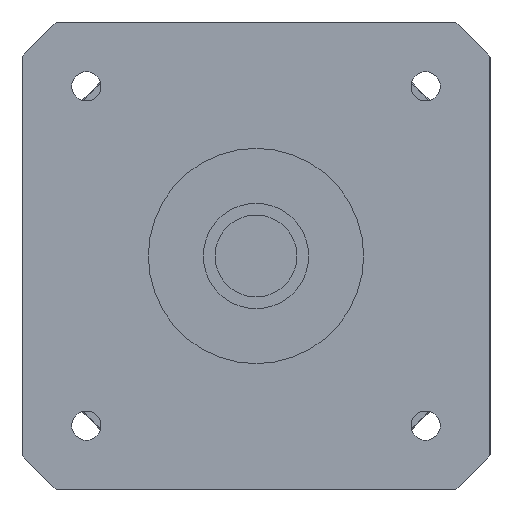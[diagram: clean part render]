
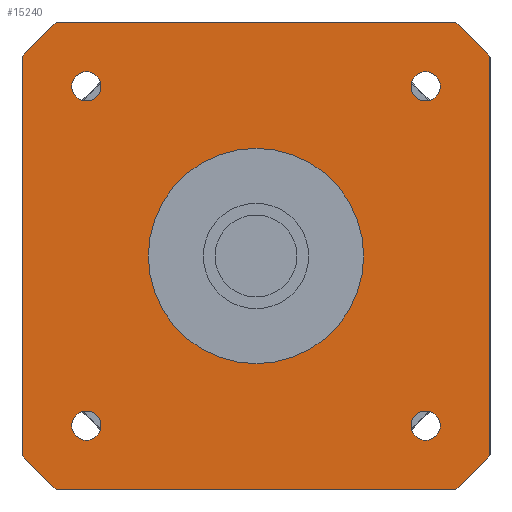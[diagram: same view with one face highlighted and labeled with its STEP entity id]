
A CAD part, left-side view. The second image highlights one B-rep face of the part: STEP entity #15240.
In plain terms, the highlighted planar face has unit normal (-1, 0, 0) as drawn and (0, 0, -1) by its records, which use the part's own axes.
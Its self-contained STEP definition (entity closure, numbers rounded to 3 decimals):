
#8700=CARTESIAN_POINT('',(-34.004,-40.,-44.2));
#8710=VERTEX_POINT('',#8700);
#8860=CARTESIAN_POINT('',(34.004,-40.,-44.2));
#8870=VERTEX_POINT('',#8860);
#8900=CARTESIAN_POINT('',(-40.,-40.,-44.2));
#8910=DIRECTION('',(1.,0.,0.));
#8920=VECTOR('',#8910,1000.);
#8930=LINE('',#8900,#8920);
#8940=EDGE_CURVE('',#8710,#8870,#8930,.T.);
#9080=CARTESIAN_POINT('',(28.998,-26.498,-44.2));
#9090=VERTEX_POINT('',#9080);
#9360=CARTESIAN_POINT('',(28.998,-31.498,-44.2));
#9370=VERTEX_POINT('',#9360);
#9400=CARTESIAN_POINT('',(28.998,-28.998,-44.2));
#9410=DIRECTION('',(0.,0.,-1.));
#9420=DIRECTION('',(1.,0.,0.));
#9430=AXIS2_PLACEMENT_3D('',#9400,#9410,#9420);
#9440=CIRCLE('',#9430,2.5);
#9450=CARTESIAN_POINT('',(31.498,-28.998,-44.2));
#9460=VERTEX_POINT('',#9450);
#9470=EDGE_CURVE('',#9460,#9370,#9440,.T.);
#9490=EDGE_CURVE('',#9090,#9460,#9440,.T.);
#12750=CARTESIAN_POINT('',(40.,34.004,-44.2));
#12760=VERTEX_POINT('',#12750);
#12840=CARTESIAN_POINT('',(34.004,40.,-44.2));
#12850=VERTEX_POINT('',#12840);
#12880=CARTESIAN_POINT('',(0.,0.,
-44.2));
#12890=DIRECTION('',(0.,0.,1.));
#12900=DIRECTION('',(1.,0.,0.));
#12910=AXIS2_PLACEMENT_3D('',#12880,#12890,#12900);
#12920=CIRCLE('',#12910,52.5);
#12930=EDGE_CURVE('',#12760,#12850,#12920,.T.);
#13070=CARTESIAN_POINT('',(40.,-34.004,-44.2));
#13080=VERTEX_POINT('',#13070);
#13130=CARTESIAN_POINT('',(40.,-40.,-44.2));
#13140=DIRECTION('',(0.,1.,0.));
#13150=VECTOR('',#13140,1000.);
#13160=LINE('',#13130,#13150);
#13170=EDGE_CURVE('',#13080,#12760,#13160,.T.);
#13280=CARTESIAN_POINT('',(0.,0.,
-44.2));
#13290=DIRECTION('',(0.,0.,1.));
#13300=DIRECTION('',(1.,0.,0.));
#13310=AXIS2_PLACEMENT_3D('',#13280,#13290,#13300);
#13320=CIRCLE('',#13310,52.5);
#13330=EDGE_CURVE('',#8870,#13080,#13320,.T.);
#13510=CARTESIAN_POINT('',(-34.004,40.,-44.2));
#13520=VERTEX_POINT('',#13510);
#13550=CARTESIAN_POINT('',(40.,40.,-44.2));
#13560=DIRECTION('',(-1.,0.,0.));
#13570=VECTOR('',#13560,1000.);
#13580=LINE('',#13550,#13570);
#13590=EDGE_CURVE('',#12850,#13520,#13580,.T.);
#13750=CARTESIAN_POINT('',(-40.,34.004,-44.2));
#13760=VERTEX_POINT('',#13750);
#13790=CARTESIAN_POINT('',(0.,0.,
-44.2));
#13800=DIRECTION('',(0.,0.,1.));
#13810=DIRECTION('',(1.,0.,0.));
#13820=AXIS2_PLACEMENT_3D('',#13790,#13800,#13810);
#13830=CIRCLE('',#13820,52.5);
#13840=EDGE_CURVE('',#13520,#13760,#13830,.T.);
#14000=CARTESIAN_POINT('',(-40.,-34.004,-44.2));
#14010=VERTEX_POINT('',#14000);
#14040=CARTESIAN_POINT('',(-40.,40.,-44.2));
#14050=DIRECTION('',(0.,-1.,0.));
#14060=VECTOR('',#14050,1000.);
#14070=LINE('',#14040,#14060);
#14080=EDGE_CURVE('',#13760,#14010,#14070,.T.);
#14210=CARTESIAN_POINT('',(0.,0.,
-44.2));
#14220=DIRECTION('',(0.,0.,1.));
#14230=DIRECTION('',(1.,0.,0.));
#14240=AXIS2_PLACEMENT_3D('',#14210,#14220,#14230);
#14250=CIRCLE('',#14240,52.5);
#14260=EDGE_CURVE('',#14010,#8710,#14250,.T.);
#14310=CARTESIAN_POINT('',(40.,40.,-44.2));
#14320=DIRECTION('',(0.,0.,1.));
#14330=DIRECTION('',(0.,1.,0.));
#14340=AXIS2_PLACEMENT_3D('',#14310,#14320,#14330);
#14350=PLANE('',#14340);
#14360=CARTESIAN_POINT('',(28.998,28.998,-44.2));
#14370=DIRECTION('',(0.,0.,-1.));
#14380=DIRECTION('',(1.,0.,0.));
#14390=AXIS2_PLACEMENT_3D('',#14360,#14370,#14380);
#14400=CIRCLE('',#14390,2.5);
#14410=CARTESIAN_POINT('',(31.498,28.998,-44.2));
#14420=VERTEX_POINT('',#14410);
#14430=CARTESIAN_POINT('',(28.998,26.498,-44.2));
#14440=VERTEX_POINT('',#14430);
#14450=EDGE_CURVE('',#14420,#14440,#14400,.T.);
#14460=ORIENTED_EDGE('',*,*,#14450,.F.);
#14470=CARTESIAN_POINT('',(28.998,31.498,-44.2));
#14480=VERTEX_POINT('',#14470);
#14490=EDGE_CURVE('',#14440,#14480,#14400,.T.);
#14500=ORIENTED_EDGE('',*,*,#14490,.F.);
#14510=EDGE_CURVE('',#14480,#14420,#14400,.T.);
#14520=ORIENTED_EDGE('',*,*,#14510,.F.);
#14530=EDGE_LOOP('',(#14520,#14500,#14460));
#14540=FACE_BOUND('',#14530,.T.);
#14550=CARTESIAN_POINT('',(-28.998,28.998,-44.2));
#14560=DIRECTION('',(0.,0.,-1.));
#14570=DIRECTION('',(1.,0.,0.));
#14580=AXIS2_PLACEMENT_3D('',#14550,#14560,#14570);
#14590=CIRCLE('',#14580,2.5);
#14600=CARTESIAN_POINT('',(-26.498,28.998,-44.2));
#14610=VERTEX_POINT('',#14600);
#14620=CARTESIAN_POINT('',(-28.998,26.498,-44.2));
#14630=VERTEX_POINT('',#14620);
#14640=EDGE_CURVE('',#14610,#14630,#14590,.T.);
#14650=ORIENTED_EDGE('',*,*,#14640,.F.);
#14660=CARTESIAN_POINT('',(-28.998,31.498,-44.2));
#14670=VERTEX_POINT('',#14660);
#14680=EDGE_CURVE('',#14630,#14670,#14590,.T.);
#14690=ORIENTED_EDGE('',*,*,#14680,.F.);
#14700=EDGE_CURVE('',#14670,#14610,#14590,.T.);
#14710=ORIENTED_EDGE('',*,*,#14700,.F.);
#14720=EDGE_LOOP('',(#14710,#14690,#14650));
#14730=FACE_BOUND('',#14720,.T.);
#14740=CARTESIAN_POINT('',(0.,0.,
-44.2));
#14750=DIRECTION('',(0.,0.,1.));
#14760=DIRECTION('',(0.,-1.,0.));
#14770=AXIS2_PLACEMENT_3D('',#14740,#14750,#14760);
#14780=CIRCLE('',#14770,18.4);
#14790=CARTESIAN_POINT('',(0.,-18.4,-44.2));
#14800=VERTEX_POINT('',#14790);
#14810=CARTESIAN_POINT('',(0.,18.4,-44.2));
#14820=VERTEX_POINT('',#14810);
#14830=EDGE_CURVE('',#14800,#14820,#14780,.T.);
#14840=ORIENTED_EDGE('',*,*,#14830,.T.);
#14850=EDGE_CURVE('',#14820,#14800,#14780,.T.);
#14860=ORIENTED_EDGE('',*,*,#14850,.T.);
#14870=EDGE_LOOP('',(#14860,#14840));
#14880=FACE_BOUND('',#14870,.T.);
#14890=CARTESIAN_POINT('',(-28.998,-28.998,-44.2));
#14900=DIRECTION('',(0.,0.,-1.));
#14910=DIRECTION('',(1.,0.,0.));
#14920=AXIS2_PLACEMENT_3D('',#14890,#14900,#14910);
#14930=CIRCLE('',#14920,2.5);
#14940=CARTESIAN_POINT('',(-26.498,-28.998,-44.2));
#14950=VERTEX_POINT('',#14940);
#14960=CARTESIAN_POINT('',(-28.998,-31.498,-44.2));
#14970=VERTEX_POINT('',#14960);
#14980=EDGE_CURVE('',#14950,#14970,#14930,.T.);
#14990=ORIENTED_EDGE('',*,*,#14980,.F.);
#15000=CARTESIAN_POINT('',(-28.998,-26.498,-44.2));
#15010=VERTEX_POINT('',#15000);
#15020=EDGE_CURVE('',#14970,#15010,#14930,.T.);
#15030=ORIENTED_EDGE('',*,*,#15020,.F.);
#15040=EDGE_CURVE('',#15010,#14950,#14930,.T.);
#15050=ORIENTED_EDGE('',*,*,#15040,.F.);
#15060=EDGE_LOOP('',(#15050,#15030,#14990));
#15070=FACE_BOUND('',#15060,.T.);
#15080=ORIENTED_EDGE('',*,*,#9470,.F.);
#15090=EDGE_CURVE('',#9370,#9090,#9440,.T.);
#15100=ORIENTED_EDGE('',*,*,#15090,.F.);
#15110=ORIENTED_EDGE('',*,*,#9490,.F.);
#15120=EDGE_LOOP('',(#15110,#15100,#15080));
#15130=FACE_BOUND('',#15120,.T.);
#15140=ORIENTED_EDGE('',*,*,#13840,.F.);
#15150=ORIENTED_EDGE('',*,*,#14080,.F.);
#15160=ORIENTED_EDGE('',*,*,#14260,.F.);
#15170=ORIENTED_EDGE('',*,*,#8940,.F.);
#15180=ORIENTED_EDGE('',*,*,#13330,.F.);
#15190=ORIENTED_EDGE('',*,*,#13170,.F.);
#15200=ORIENTED_EDGE('',*,*,#12930,.F.);
#15210=ORIENTED_EDGE('',*,*,#13590,.F.);
#15220=EDGE_LOOP('',(#15210,#15200,#15190,#15180,#15170,#15160,#15150,
#15140));
#15230=FACE_OUTER_BOUND('',#15220,.T.);
#15240=ADVANCED_FACE('',(#14540,#14730,#14880,#15070,#15130,#15230),
#14350,.F.);
